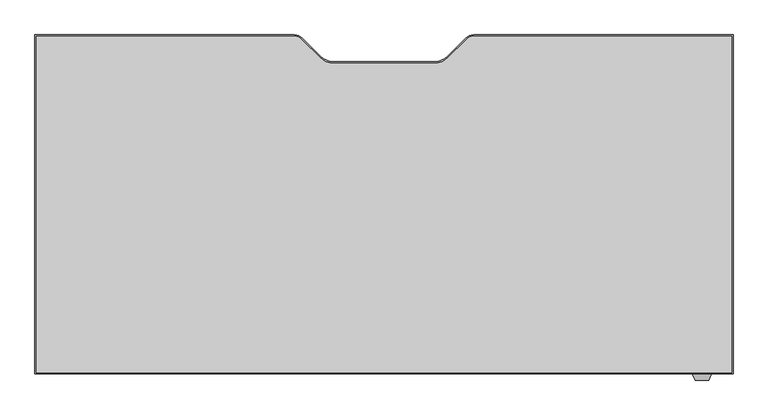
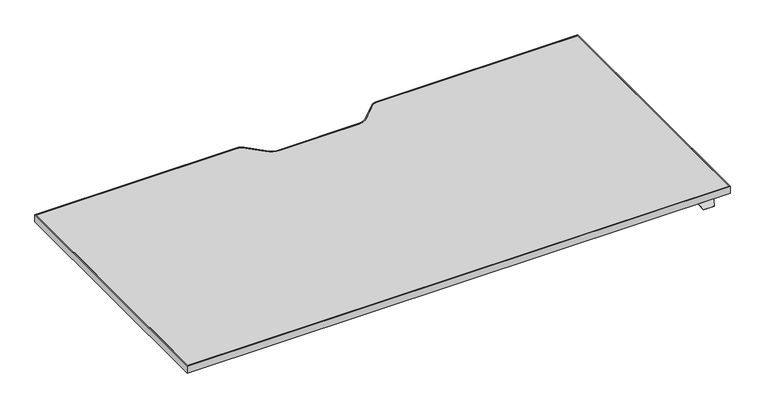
"""IFC4 building model written with IfcOpenShell, lengths in millimetres: furniture geometry, Steelcase Turnstone - Bivi - Height Adjustable Desk - T Base : 35D x 72W."""

import ifcopenshell
import ifcopenshell.guid

model = None  # the IFC model being written
_history = None  # IfcOwnerHistory: only IFC2X3 demands one
_inside = {}  # id of a spatial element -> (the spatial element, [elements in it])
_under = {}  # id of a project, library or spatial element -> (it, [spatial elements below it])
_declared = {}  # id of a project -> (the project, [libraries it declares])
_typed = {}  # id of a type object -> (the type object, [elements of that type])
_made_of = {}  # id of a material, layer set ... -> (it, [elements and type objects made of it])


def new_model(schema):
    """Start an empty IFC model of exactly this schema.

    Asked for "IFC4X3", IfcOpenShell would pick the latest addendum, in which some entities
    have other attributes; the version numbers below select the first issue.
    IFC2X3 requires an IfcOwnerHistory on every rooted entity: one is made here for all.
    """
    global model, _history
    if schema == "IFC4X3":
        model = ifcopenshell.file(schema_version=(4, 3, 0, 0))
    else:
        model = ifcopenshell.file(schema=schema)
    _inside.clear()
    _under.clear()
    _declared.clear()
    _typed.clear()
    _made_of.clear()
    _history = None
    if model.schema == "IFC2X3":
        org = make("IfcOrganization", Name="unknown")
        user = make(
            "IfcPersonAndOrganization",
            ThePerson=make("IfcPerson", FamilyName="unknown"),
            TheOrganization=org,
        )
        app = make(
            "IfcApplication",
            ApplicationDeveloper=org,
            Version="unknown",
            ApplicationFullName="unknown",
            ApplicationIdentifier="unknown",
        )
        _history = make(
            "IfcOwnerHistory",
            OwningUser=user,
            OwningApplication=app,
            ChangeAction="ADDED",
            CreationDate=0,
        )
    return model


def make(cls, **values):
    """One entity of the class cls with the attributes given. An attribute that is None is left unset."""
    return model.create_entity(
        cls, **{name: value for name, value in values.items() if value is not None}
    )


def rooted(cls, **values):
    """An entity with a GlobalId (a new one), such as an element, a storey or a relation."""
    return make(cls, GlobalId=ifcopenshell.guid.new(), OwnerHistory=_history, **values)


def si_unit(unit_type, name, prefix=None):
    """IfcSIUnit, for example si_unit("LENGTHUNIT", "METRE", prefix="MILLI")."""
    return make("IfcSIUnit", UnitType=unit_type, Prefix=prefix, Name=name)


def assignment(units):
    """IfcUnitAssignment: the units of a project."""
    return None if units is None else make("IfcUnitAssignment", Units=units)


def point(xyz):
    """IfcCartesianPoint."""
    return None if xyz is None else make("IfcCartesianPoint", Coordinates=xyz)


def direction(xyz):
    """IfcDirection."""
    return None if xyz is None else make("IfcDirection", DirectionRatios=xyz)


def frame(location, z_axis=None, x_axis=None):
    """IfcAxis2Placement3D, a coordinate frame: its origin and axes. An axis left out is left unset."""
    return make(
        "IfcAxis2Placement3D",
        Location=point(location),
        Axis=direction(z_axis),
        RefDirection=direction(x_axis),
    )


def frame_2d(location, x_axis=None):
    """IfcAxis2Placement2D, a coordinate frame in the plane: its origin and x axis."""
    return make(
        "IfcAxis2Placement2D", Location=point(location), RefDirection=direction(x_axis)
    )


def origin():
    """The frame at (0, 0, 0) with its axes left unset."""
    return frame((0.0, 0.0, 0.0))


def place(relative_to, where):
    """IfcLocalPlacement: puts the frame where relative to a parent placement (None: the world)."""
    return make(
        "IfcLocalPlacement", PlacementRelTo=relative_to, RelativePlacement=where
    )


def context(
    kind, dimensions, precision=None, world=None, true_north=None, identifier=None
):
    """IfcGeometricRepresentationContext, for example the 3D "Model" context."""
    return make(
        "IfcGeometricRepresentationContext",
        ContextIdentifier=identifier,
        ContextType=kind,
        CoordinateSpaceDimension=dimensions,
        Precision=precision,
        WorldCoordinateSystem=world,
        TrueNorth=true_north,
    )


def project(units=None, contexts=None):
    """IfcProject with its units and contexts."""
    return rooted(
        "IfcProject",
        Name="project",
        RepresentationContexts=contexts,
        UnitsInContext=assignment(units),
    )


def spatial(cls, under=None, at=None, **own):
    """A site, building, storey or space (cls), placed at a placement, below another one or the project."""
    s = rooted(cls, ObjectPlacement=at, **own)
    if under is not None:
        _under.setdefault(under.id(), (under, []))[1].append(s)
    return s


def polyline(points):
    """IfcPolyline through the points."""
    return make("IfcPolyline", Points=[point(p) for p in points])


def circle_curve(where, radius):
    """IfcCircle in the frame where."""
    return make("IfcCircle", Position=where, Radius=radius)


def trimmed(basis, trim1, trim2, sense, master):
    """IfcTrimmedCurve: the piece of a basis curve between two trims."""
    return make(
        "IfcTrimmedCurve",
        BasisCurve=basis,
        Trim1=trim1,
        Trim2=trim2,
        SenseAgreement=sense,
        MasterRepresentation=master,
    )


def segment(curve, same_sense, transition):
    """IfcCompositeCurveSegment."""
    return make(
        "IfcCompositeCurveSegment",
        Transition=transition,
        SameSense=same_sense,
        ParentCurve=curve,
    )


def composite_curve(segments, self_intersect=None):
    """IfcCompositeCurve: segments joined end to end."""
    return make("IfcCompositeCurve", Segments=segments, SelfIntersect=self_intersect)


def outline(outer, holes=None, kind="AREA"):
    """IfcArbitraryClosedProfileDef: a profile drawn as a closed curve; with holes, ...WithVoids."""
    if holes is None:
        return make("IfcArbitraryClosedProfileDef", ProfileType=kind, OuterCurve=outer)
    return make(
        "IfcArbitraryProfileDefWithVoids",
        ProfileType=kind,
        OuterCurve=outer,
        InnerCurves=holes,
    )


def extrude(swept, where, along, depth):
    """IfcExtrudedAreaSolid: the profile swept, set in the frame where, extruded along a direction by depth."""
    return make(
        "IfcExtrudedAreaSolid",
        SweptArea=swept,
        Position=where,
        ExtrudedDirection=direction(along),
        Depth=depth,
    )


def faces_of(points, faces, orient=None, outer=None):
    """IfcFace entities. A face is a list of loops; a loop is a list of indices into points, from 0.

    orient and outer hold one flag for each loop. By default every Orientation is true, the
    first loop of a face is its IfcFaceOuterBound and the others are IfcFaceBound.
    """
    made = []
    for i, loops in enumerate(faces):
        bounds = []
        for j, loop in enumerate(loops):
            is_outer = j == 0 if outer is None else outer[i][j]
            bounds.append(
                make(
                    "IfcFaceOuterBound" if is_outer else "IfcFaceBound",
                    Bound=make("IfcPolyLoop", Polygon=[points[k] for k in loop]),
                    Orientation=True if orient is None else orient[i][j],
                )
            )
        made.append(make("IfcFace", Bounds=bounds))
    return made


def faceted_brep(points, faces, orient=None, outer=None, voids=None):
    """IfcFacetedBrep: a solid bounded by flat faces; with voids (closed shells), ...WithVoids."""
    shared = [point(p) for p in points]
    hull = make("IfcClosedShell", CfsFaces=faces_of(shared, faces, orient, outer))
    if voids is None:
        return make("IfcFacetedBrep", Outer=hull)
    return make(
        "IfcFacetedBrepWithVoids",
        Outer=hull,
        Voids=[
            make(cls, CfsFaces=faces_of(shared, fs, o, b)) for cls, fs, o, b in voids
        ],
    )


def shape(context_of_items, identifier, shape_type, items):
    """IfcShapeRepresentation: the items that make up one representation, for example the "Body"."""
    return make(
        "IfcShapeRepresentation",
        ContextOfItems=context_of_items,
        RepresentationIdentifier=identifier,
        RepresentationType=shape_type,
        Items=items,
    )


def source(mapping_origin, context_of_items, identifier, shape_type, items):
    """IfcRepresentationMap: a shape defined once, which mapped items show again and again."""
    return make(
        "IfcRepresentationMap",
        MappingOrigin=mapping_origin,
        MappedRepresentation=shape(context_of_items, identifier, shape_type, items),
    )


def transform(
    local_origin,
    x_axis=None,
    y_axis=None,
    z_axis=None,
    scale=None,
    scale2=None,
    scale3=None,
    uniform=True,
):
    """IfcCartesianTransformationOperator3D, or its non-uniform kind. x_axis, y_axis, z_axis: its Axis1, 2, 3."""
    if uniform:
        return make(
            "IfcCartesianTransformationOperator3D",
            Axis1=direction(x_axis),
            Axis2=direction(y_axis),
            LocalOrigin=point(local_origin),
            Scale=scale,
            Axis3=direction(z_axis),
        )
    return make(
        "IfcCartesianTransformationOperator3DnonUniform",
        Axis1=direction(x_axis),
        Axis2=direction(y_axis),
        LocalOrigin=point(local_origin),
        Scale=scale,
        Axis3=direction(z_axis),
        Scale2=scale2,
        Scale3=scale3,
    )


def mapped(mapping_source, mapping_target):
    """IfcMappedItem: shows the shape of a source again, moved by a transform."""
    return make(
        "IfcMappedItem", MappingSource=mapping_source, MappingTarget=mapping_target
    )


def made_of(thing, what):
    """Note that an element or type object is made of a material, layer set ...; save() writes the relation."""
    if what is not None:
        _made_of.setdefault(what.id(), (what, []))[1].append(thing)
    return thing


def element(
    cls,
    number,
    at=None,
    inside=None,
    cuts=None,
    type_object=None,
    material=None,
    context=None,
    identifier="Body",
    shape_type=None,
    held_by="IfcProductDefinitionShape",
    body=None,
    shapes=None,
    **own,
):
    """One element of the class cls, such as IfcWall. Its Tag is "e" and its number.

    at: its placement. inside: the storey or other place that contains it. cuts: it is an
    opening in that element (IfcRelVoidsElement). A single representation is given by context,
    identifier, shape_type and body (its items); several are given by shapes. held_by: the class
    of the entity that holds the representations. save() writes the other relations.
    """
    e = rooted(cls, Tag="e%d" % number, ObjectPlacement=at, **own)
    if body is not None:
        shapes = [shape(context, identifier, shape_type, body)]
    if shapes is not None:
        e.Representation = make(held_by, Representations=shapes)
    if inside is not None:
        _inside.setdefault(inside.id(), (inside, []))[1].append(e)
    if cuts is not None:
        rooted(
            "IfcRelVoidsElement", RelatingBuildingElement=cuts, RelatedOpeningElement=e
        )
    if type_object is not None:
        _typed.setdefault(type_object.id(), (type_object, []))[1].append(e)
    return made_of(e, material)


def aggregate(whole, parts):
    """IfcRelAggregates: a whole, such as a stair, and the parts it consists of."""
    return rooted("IfcRelAggregates", RelatingObject=whole, RelatedObjects=parts)


def save(model, path):
    """Write the relations noted so far, then the file.

    IfcRelAggregates (storeys below a building ...), IfcRelContainedInSpatialStructure (elements
    in a storey), IfcRelDefinesByType, IfcRelAssociatesMaterial and IfcRelDeclares: one each for
    every whole, place, type object, material and project.
    """
    for whole, parts in _under.values():
        aggregate(whole, parts)
    for where, things in _inside.values():
        rooted(
            "IfcRelContainedInSpatialStructure",
            RelatedElements=things,
            RelatingStructure=where,
        )
    for kind, things in _typed.values():
        rooted("IfcRelDefinesByType", RelatedObjects=things, RelatingType=kind)
    for what, things in _made_of.values():
        rooted("IfcRelAssociatesMaterial", RelatedObjects=things, RelatingMaterial=what)
    for by, libraries in _declared.values():
        rooted("IfcRelDeclares", RelatingContext=by, RelatedDefinitions=libraries)
    model.write(path)


def furniture_9cf37eae(model_context):
    return source(origin(), model_context, "Body", "SolidModel", [
        faceted_brep([(468.4177913, -542.0301693, 760.9984131), (468.4177913, -539.5074599, 760.9984131), (468.4177913, -539.5074599, 762.4), (468.4177913, -542.0490853, 762.4), (468.4177913, -543.3594921, 761.3004382), (468.4177913, -543.3594921, 759.8829789), (418.8448135, -542.0490853, 762.4), (418.8448135, -539.5074599, 762.4), (418.8448135, -539.5074599, 760.9984131), (418.8448135, -542.0301693, 760.9984131), (418.8448135, -543.3594921, 759.8829789), (418.8448135, -543.3594921, 761.3004382), (461.4358363, -558.3323429, 748.7367246), (425.8267685, -558.3323429, 748.7367246), (425.4673686, -557.5616074, 747.9659891), (461.7952362, -557.5616074, 747.9659891)], [[[0, 1, 2, 3, 4, 5]], [[6, 7, 8, 9, 10, 11]], [[12, 13, 14, 15]], [[9, 0, 5, 15, 14, 10]], [[1, 0, 9, 8]], [[2, 1, 8, 7]], [[3, 2, 7, 6]], [[3, 6, 11, 13, 12, 4]], [[5, 4, 12, 15]], [[11, 10, 14, 13]]]),
        extrude(outline(composite_curve([segment(polyline([(-1303.6285908, 346.9509147), (-623.9070191, 346.9509147)]), True, "CONTINUOUS"), segment(trimmed(circle_curve(frame_2d((-623.9070191, 318.2489147)), 28.702), [point((-623.9070191, 346.9509147))], [point((-603.6116402, 338.5442935))], False, "CARTESIAN"), True, "CONTINUOUS"), segment(polyline([(-603.6116402, 338.5442935), (-556.0972358, 291.0298891)]), True, "CONTINUOUS"), segment(trimmed(circle_curve(frame_2d((-520.1762113, 326.9509136)), 50.8), [point((-556.0972358, 291.0298891))], [point((-520.1762113, 276.1509136))], True, "CARTESIAN"), True, "CONTINUOUS"), segment(polyline([(-520.1762113, 276.1509136), (-258.2809703, 276.1509136)]), True, "CONTINUOUS"), segment(trimmed(circle_curve(frame_2d((-258.2809703, 326.9509136)), 50.8), [point((-258.2809703, 276.1509136))], [point((-222.3599458, 291.0298891))], True, "CARTESIAN"), True, "CONTINUOUS"), segment(polyline([(-222.3599458, 291.0298891), (-174.8455414, 338.5442935)]), True, "CONTINUOUS"), segment(trimmed(circle_curve(frame_2d((-154.5501625, 318.2489147)), 28.702), [point((-174.8455414, 338.5442935))], [point((-154.5501625, 346.9509147))], False, "CARTESIAN"), True, "CONTINUOUS"), segment(polyline([(-154.5501625, 346.9509147), (525.1714092, 346.9509147), (525.1714092, -542.0490853), (-1303.6285908, -542.0490853), (-1303.6285908, 346.9509147)]), True, "CONTINUOUS")], self_intersect=False), holes=[composite_curve([segment(polyline([(-1300.2487543, 343.6489147), (-1300.2487543, -538.7470853), (521.8694092, -538.7470853), (521.8694092, 343.6489147), (-154.5501625, 343.6489147)]), True, "CONTINUOUS"), segment(trimmed(circle_curve(frame_2d((-154.5501625, 318.2489147)), 25.4), [point((-154.5501625, 343.6489147))], [point((-172.5106748, 336.2094269))], True, "CARTESIAN"), True, "CONTINUOUS"), segment(polyline([(-172.5106748, 336.2094269), (-220.527602, 288.1924998)]), True, "CONTINUOUS"), segment(trimmed(circle_curve(frame_2d((-256.4486265, 324.1135242)), 50.8), [point((-220.527602, 288.1924998))], [point((-256.4486265, 273.3135242))], False, "CARTESIAN"), True, "CONTINUOUS"), segment(polyline([(-256.4486265, 273.3135242), (-389.2285908, 273.3135242), (-522.0085552, 273.3135242)]), True, "CONTINUOUS"), segment(trimmed(circle_curve(frame_2d((-522.0085552, 324.1135242)), 50.8), [point((-522.0085552, 273.3135242))], [point((-557.9295796, 288.1924998))], False, "CARTESIAN"), True, "CONTINUOUS"), segment(polyline([(-557.9295796, 288.1924998), (-605.9465068, 336.2094269)]), True, "CONTINUOUS"), segment(trimmed(circle_curve(frame_2d((-623.9070191, 318.2489147)), 25.4), [point((-605.9465068, 336.2094269))], [point((-623.9070191, 343.6489147))], True, "CARTESIAN"), True, "CONTINUOUS"), segment(polyline([(-623.9070191, 343.6489147), (-1300.2487543, 343.6489147)]), True, "CONTINUOUS")], self_intersect=False)]), frame((0.0, 0.0, 762.4), z_axis=(0.0, 0.0, 1.0), x_axis=(1.0, 0.0, 0.0)), (0.0, 0.0, 1.0), 25.0),
        extrude(outline(composite_curve([segment(polyline([(-1300.2487543, 343.6489147), (-623.9070191, 343.6489147)]), True, "CONTINUOUS"), segment(trimmed(circle_curve(frame_2d((-623.9070191, 318.2489147)), 25.4), [point((-623.9070191, 343.6489147))], [point((-605.9465068, 336.2094269))], False, "CARTESIAN"), True, "CONTINUOUS"), segment(polyline([(-605.9465068, 336.2094269), (-557.9295796, 288.1924998)]), True, "CONTINUOUS"), segment(trimmed(circle_curve(frame_2d((-522.0085552, 324.1135242)), 50.8), [point((-557.9295796, 288.1924998))], [point((-522.0085552, 273.3135242))], True, "CARTESIAN"), True, "CONTINUOUS"), segment(polyline([(-522.0085552, 273.3135242), (-389.2285908, 273.3135242), (-256.4486265, 273.3135242)]), True, "CONTINUOUS"), segment(trimmed(circle_curve(frame_2d((-256.4486265, 324.1135242)), 50.8), [point((-256.4486265, 273.3135242))], [point((-220.527602, 288.1924998))], True, "CARTESIAN"), True, "CONTINUOUS"), segment(polyline([(-220.527602, 288.1924998), (-172.5106748, 336.2094269)]), True, "CONTINUOUS"), segment(trimmed(circle_curve(frame_2d((-154.5501625, 318.2489147)), 25.4), [point((-172.5106748, 336.2094269))], [point((-154.5501625, 343.6489147))], False, "CARTESIAN"), True, "CONTINUOUS"), segment(polyline([(-154.5501625, 343.6489147), (521.8694092, 343.6489147), (521.8694092, -538.7470853), (-1300.2487543, -538.7470853), (-1300.2487543, 343.6489147)]), True, "CONTINUOUS")], self_intersect=False)), frame((0.0, 0.0, 762.4), z_axis=(0.0, 0.0, 1.0), x_axis=(1.0, 0.0, 0.0)), (0.0, 0.0, 1.0), 25.0),
    ])


if __name__ == "__main__":
    model = new_model("IFC4")
    model_context = context("Model", 3, world=origin())
    ifc_project = project(units=[si_unit("LENGTHUNIT", "METRE", prefix="MILLI")], contexts=[model_context])
    site = spatial("IfcSite", under=ifc_project)
    building = spatial("IfcBuilding", under=site)
    placement = place(None, origin())
    furniture_shape = furniture_9cf37eae(model_context)
    element("IfcFurniture", 1, ObjectType="Steelcase Turnstone - Bivi - Height Adjustable Desk - T Base : 35D x 72W", at=placement, inside=building, context=model_context, shape_type="MappedRepresentation", body=[
        mapped(furniture_shape, transform((0.0, 0.0, 0.0), x_axis=(1.0, 0.0, 0.0), y_axis=(0.0, 1.0, 0.0), z_axis=(0.0, 0.0, 1.0))),
    ])
    save(model, "model.ifc")
